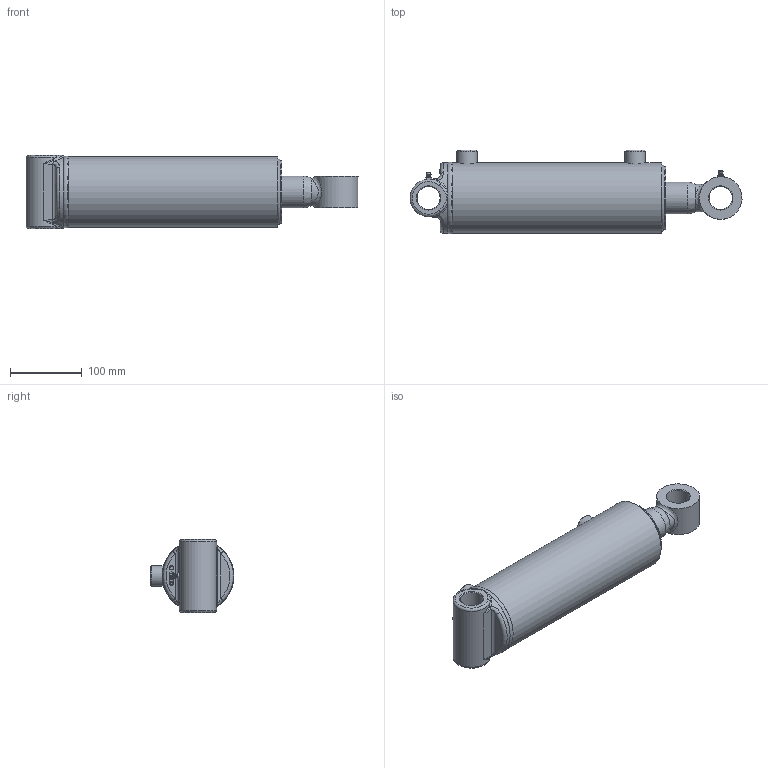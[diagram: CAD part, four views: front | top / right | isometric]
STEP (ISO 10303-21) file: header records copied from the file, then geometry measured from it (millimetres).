
FILE_DESCRIPTION(/* description */ ('Ø3.50 X 8.00 DA'),/* implementation_level */ '2;1');
FILE_NAME(/* name */ 'T:\Aces\Jobs\16f4fa63606746c0bcd73a067b01f627\result.stp',/* time_stamp */ '2022-08-08T12:50:18+00:00',/* author */ (''),/* organization */ ('PRINCE MANUFACTURING'),/* preprocessor_version */ 'ST-DEVELOPER v18.1',/* originating_system */ 'Autodesk Inventor 2022',/* authorisation */ '');
FILE_SCHEMA (('AUTOMOTIVE_DESIGN { 1 0 10303 214 3 1 1 }'));
Length unit declared in the file: inch
Products named in the file (21): PC3508017A00-160XYXA; 0617-XYSF000-11570; 0517-T-11570; 161700179; 200015603; 06Weld1_C360; 0717-P-100; 220000210; 0817-G-175; 230025105; 230025005; 240000022; 240061338; 240000338; 0210A-HAW5-13687XA; 0110A-HAW5-13687; 210600529; 02Weld_C360; 240020007; 250014175; 270010020
Assembly tree (22 placements, depth 3):
  PC3508017A00-160XYXA
    0617-XYSF000-11570
      0517-T-11570
      161700179
      200015603  x2
      06Weld1_C360
    0717-P-100
    220000210
    0817-G-175
    230025105
    230025005
    240000022
    240061338
    240000338
    0210A-HAW5-13687XA
      0110A-HAW5-13687
      210600529
      02Weld_C360
    240020007
    250014175
    270010020  x2
Bounding box: 461.92 x 116.74 x 101.6 mm (x, y, z)
Volume: 1577852 mm3; surface area: 410975.6 mm2
Topology: 26 solids, 26 shells, 536 faces, 1281 edges, 823 vertices
Faces by surface type: plane 144, bspline 128, torus 89, cylinder 87, cone 84, sphere 4
Full cylindrical faces by diameter (mm): 2.143 x4, 3.175 x1, 5.359 x2, 6.35 x2, 9.525 x2, 12.649 x1, 12.7 x1, 12.725 x1, 17.323 x2, 23.444 x1, 25.349 x1, 25.476 x1, 27.965 x1, 28.575 x2, 32.131 x2, 44.45 x1, 44.526 x2, 45.644 x2, 46.482 x1, 46.838 x1, 51.613 x1, 52.807 x1, 54 x1, 55.626 x2, 57.15 x2, 61.976 x1, 69.85 x2, 79.477 x2, 80.213 x2, 83.82 x1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
Entity records: 29462 total; most frequent: CARTESIAN_POINT 17326, ORIENTED_EDGE 2352, DIRECTION 2142, EDGE_CURVE 1176, AXIS2_PLACEMENT_3D 908, VERTEX_POINT 762, EDGE_LOOP 572, FACE_OUTER_BOUND 492
